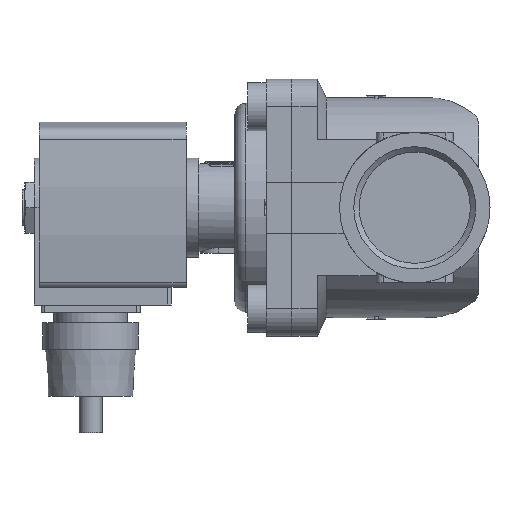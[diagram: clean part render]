
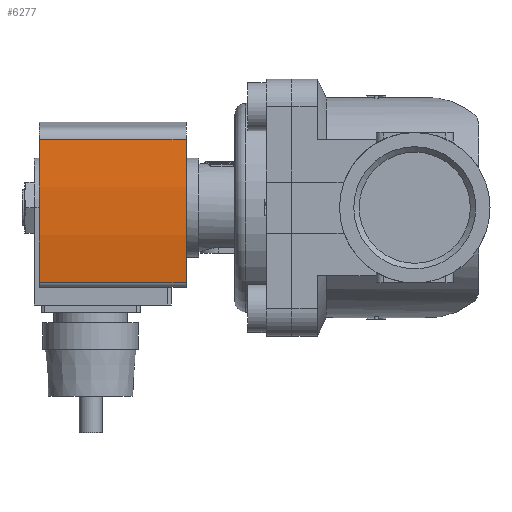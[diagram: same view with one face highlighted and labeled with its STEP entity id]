
A CAD part, left-side view. The second image highlights one B-rep face of the part: STEP entity #6277.
In plain terms, the highlighted cylindrical face has radius 130 mm (diameter 260 mm), a partial arc.
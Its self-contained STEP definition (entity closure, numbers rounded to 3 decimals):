
#226=CYLINDRICAL_SURFACE('',#6807,130.);
#668=LINE('',#10096,#1130);
#669=LINE('',#10100,#1131);
#1130=VECTOR('',#8251,1000.);
#1131=VECTOR('',#8256,1000.);
#2524=ORIENTED_EDGE('',*,*,#3407,.T.);
#2525=ORIENTED_EDGE('',*,*,#3408,.F.);
#2526=ORIENTED_EDGE('',*,*,#3396,.F.);
#2527=ORIENTED_EDGE('',*,*,#3406,.T.);
#3396=EDGE_CURVE('',#3950,#3951,#4179,.T.);
#3406=EDGE_CURVE('',#3950,#3957,#668,.T.);
#3407=EDGE_CURVE('',#3957,#3958,#4187,.T.);
#3408=EDGE_CURVE('',#3951,#3958,#669,.T.);
#3950=VERTEX_POINT('',#10076);
#3951=VERTEX_POINT('',#10078);
#3957=VERTEX_POINT('',#10095);
#3958=VERTEX_POINT('',#10099);
#4179=CIRCLE('',#6797,130.);
#4187=CIRCLE('',#6808,130.);
#4505=EDGE_LOOP('',(#2524,#2525,#2526,#2527));
#4849=FACE_BOUND('',#4505,.T.);
#6277=ADVANCED_FACE('',(#4849),#226,.T.);
#6797=AXIS2_PLACEMENT_3D('',#10077,#8229,#8230);
#6807=AXIS2_PLACEMENT_3D('',#10097,#8252,#8253);
#6808=AXIS2_PLACEMENT_3D('',#10098,#8254,#8255);
#8229=DIRECTION('',(0.,1.,0.));
#8230=DIRECTION('',(1.,0.,0.));
#8251=DIRECTION('',(0.,-1.,0.));
#8252=DIRECTION('',(0.,-1.,0.));
#8253=DIRECTION('',(0.,0.,-1.));
#8254=DIRECTION('',(0.,1.,0.));
#8255=DIRECTION('',(1.,0.,0.));
#8256=DIRECTION('',(0.,-1.,0.));
#10076=CARTESIAN_POINT('',(-20.382,14.,18.392));
#10077=CARTESIAN_POINT('',(0.,14.,-110.));
#10078=CARTESIAN_POINT('',(18.639,14.,18.657));
#10095=CARTESIAN_POINT('',(-20.382,-26.,18.392));
#10096=CARTESIAN_POINT('',(-20.382,14.,18.392));
#10097=CARTESIAN_POINT('',(0.,14.,-110.));
#10098=CARTESIAN_POINT('',(0.,-26.,-110.));
#10099=CARTESIAN_POINT('',(18.639,-26.,18.657));
#10100=CARTESIAN_POINT('',(18.639,14.,18.657));
